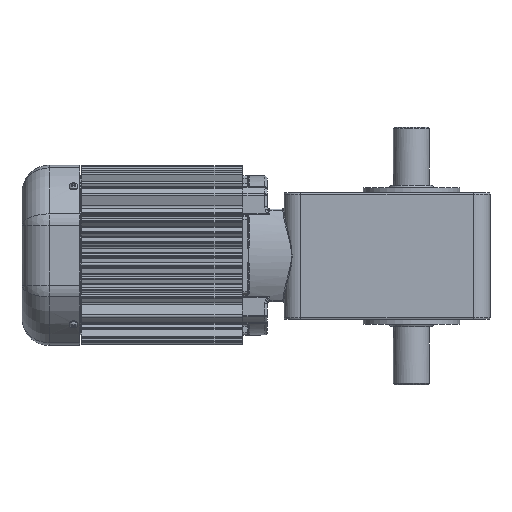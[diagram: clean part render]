
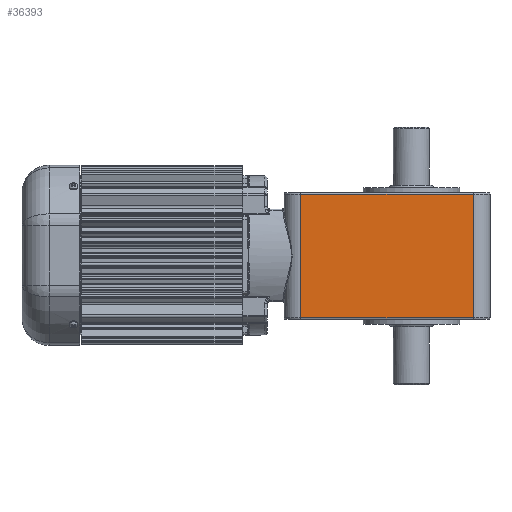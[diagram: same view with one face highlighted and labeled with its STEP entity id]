
A CAD part, front view. The second image highlights one B-rep face of the part: STEP entity #36393.
In plain terms, the highlighted planar face has unit normal (0, -1, 0).
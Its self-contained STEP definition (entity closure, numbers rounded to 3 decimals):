
#2484=LINE('',#61142,#4946);
#2682=LINE('',#64312,#5144);
#2683=LINE('',#64314,#5145);
#2684=LINE('',#64315,#5146);
#4946=VECTOR('',#48183,11.);
#5144=VECTOR('',#49347,11.);
#5145=VECTOR('',#49350,134.);
#5146=VECTOR('',#49351,134.);
#8289=FACE_OUTER_BOUND('',#10414,.T.);
#10414=EDGE_LOOP('',(#29600,#29601,#29602,#29603));
#15504=VERTEX_POINT('',#61138);
#15506=VERTEX_POINT('',#61141);
#15800=VERTEX_POINT('',#64308);
#15801=VERTEX_POINT('',#64310);
#19977=EDGE_CURVE('',#15504,#15506,#2484,.T.);
#20555=EDGE_CURVE('',#15800,#15801,#2682,.T.);
#20556=EDGE_CURVE('',#15800,#15504,#2683,.T.);
#20557=EDGE_CURVE('',#15506,#15801,#2684,.T.);
#29600=ORIENTED_EDGE('',*,*,#20556,.F.);
#29601=ORIENTED_EDGE('',*,*,#20555,.T.);
#29602=ORIENTED_EDGE('',*,*,#20557,.F.);
#29603=ORIENTED_EDGE('',*,*,#19977,.F.);
#32650=PLANE('',#40131);
#36393=ADVANCED_FACE('',(#8289),#32650,.T.);
#40131=AXIS2_PLACEMENT_3D('',#64313,#49348,#49349);
#48183=DIRECTION('',(0.,0.,1.));
#49347=DIRECTION('',(0.,0.,1.));
#49348=DIRECTION('center_axis',(0.,-1.,0.));
#49349=DIRECTION('ref_axis',(0.,0.,-1.));
#49350=DIRECTION('',(-1.,0.,0.));
#49351=DIRECTION('',(1.,0.,0.));
#61138=CARTESIAN_POINT('',(-16.5,-91.94,-44.139));
#61141=CARTESIAN_POINT('',(-16.5,-91.94,51.861));
#61142=CARTESIAN_POINT('',(-16.5,-91.94,40.861));
#64308=CARTESIAN_POINT('',(117.5,-91.94,-44.139));
#64310=CARTESIAN_POINT('',(117.5,-91.94,51.861));
#64312=CARTESIAN_POINT('',(117.5,-91.94,40.861));
#64313=CARTESIAN_POINT('Origin',(117.5,-91.94,42.361));
#64314=CARTESIAN_POINT('',(117.5,-91.94,-44.139));
#64315=CARTESIAN_POINT('',(-16.5,-91.94,51.861));
